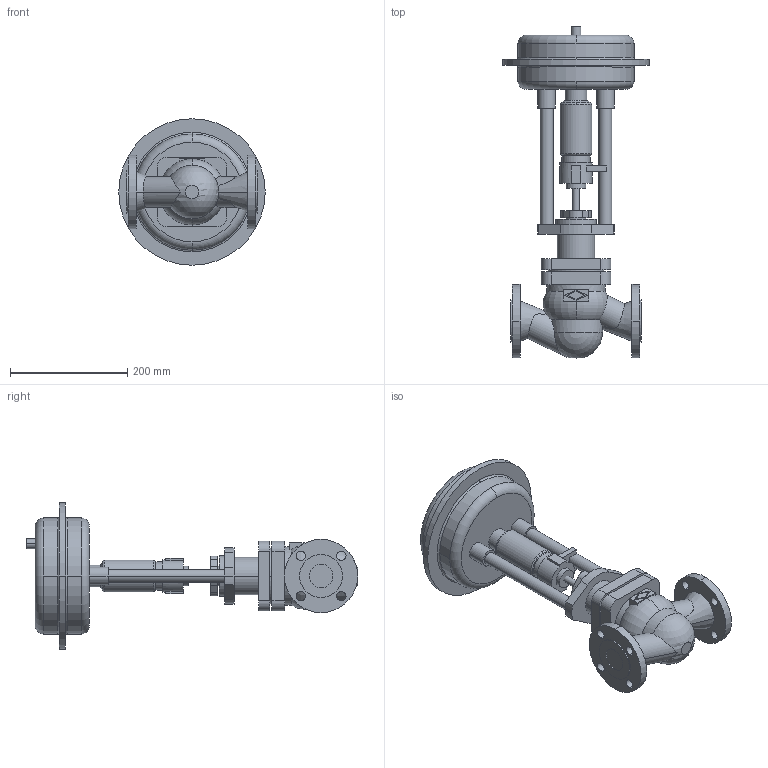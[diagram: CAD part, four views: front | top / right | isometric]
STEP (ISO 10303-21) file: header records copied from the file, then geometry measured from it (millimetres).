
FILE_DESCRIPTION( ( '' ), '1' );
FILE_NAME( 'F:/DE-SHS/TB/OR/04-Sonstiges/daten/files_3d/470-471_ANSI/470_ANSI150/c000005811.stp', '2015-10-22T06:08:40', ( '' ), ( '' ), ' ', ' ', ' ' );
FILE_SCHEMA( ( 'CONFIG_CONTROL_DESIGN' ) );
Length unit declared in the file: millimetre
Products named in the file (2): 1; 2
Bounding box: 250 x 566.5 x 250 mm (x, y, z)
Volume: 5946340.6 mm3; surface area: 414897.1 mm2
Topology: 2 solids, 2 shells, 196 faces, 502 edges, 336 vertices
Faces by surface type: cylinder 90, plane 79, torus 18, cone 8, sphere 1
Entity records: 6918 total; most frequent: CARTESIAN_POINT 1804, DIRECTION 1136, ORIENTED_EDGE 1000, EDGE_CURVE 500, AXIS2_PLACEMENT_3D 458, VERTEX_POINT 336, CIRCLE 260, EDGE_LOOP 240
